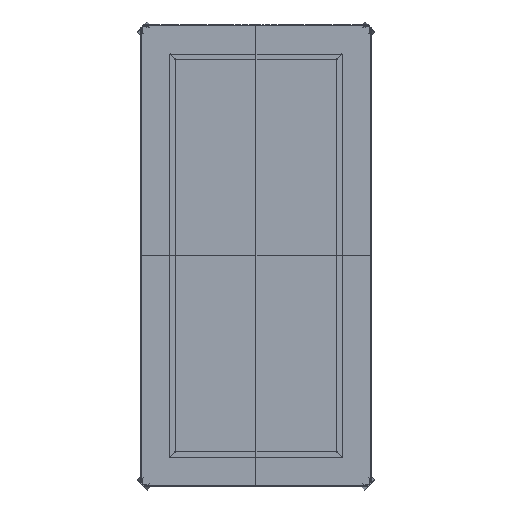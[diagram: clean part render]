
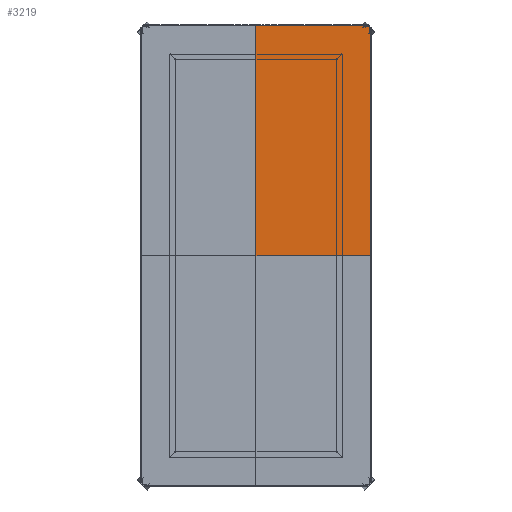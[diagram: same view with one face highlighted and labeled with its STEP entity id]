
A CAD part, top view. The second image highlights one B-rep face of the part: STEP entity #3219.
In plain terms, the highlighted free-form (B-spline) face has degree [1, 1] with [2, 2] control points.
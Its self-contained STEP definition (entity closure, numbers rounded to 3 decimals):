
#90=B_SPLINE_SURFACE_WITH_KNOTS($,1,1,((#36759,#36760),(#36761,#36762)),
.UNSPECIFIED.,.F.,.F.,.F.,(2,2),(2,2),(-263.889,544.111),
(-219.111,184.889),.UNSPECIFIED.);
#3219=ADVANCED_FACE($,(#4383),#90,.T.);
#4383=FACE_OUTER_BOUND($,#5555,.T.);
#5555=EDGE_LOOP($,(#7625,#7626,#7627,#7628,#7629,#7630,#7631,#7632,#7633,
#7634,#7635));
#7625=ORIENTED_EDGE($,*,*,#13429,.T.);
#7626=ORIENTED_EDGE($,*,*,#13430,.T.);
#7627=ORIENTED_EDGE($,*,*,#13431,.T.);
#7628=ORIENTED_EDGE($,*,*,#13432,.T.);
#7629=ORIENTED_EDGE($,*,*,#13433,.T.);
#7630=ORIENTED_EDGE($,*,*,#13434,.T.);
#7631=ORIENTED_EDGE($,*,*,#13435,.T.);
#7632=ORIENTED_EDGE($,*,*,#13436,.T.);
#7633=ORIENTED_EDGE($,*,*,#13437,.T.);
#7634=ORIENTED_EDGE($,*,*,#13438,.T.);
#7635=ORIENTED_EDGE($,*,*,#13439,.T.);
#13429=EDGE_CURVE($,#19233,#19234,#25369,.T.);
#13430=EDGE_CURVE($,#19234,#19235,#25370,.T.);
#13431=EDGE_CURVE($,#19235,#19236,#25371,.T.);
#13432=EDGE_CURVE($,#19236,#19237,#25372,.T.);
#13433=EDGE_CURVE($,#19237,#19238,#25373,.T.);
#13434=EDGE_CURVE($,#19238,#19239,#29412,.T.);
#13435=EDGE_CURVE($,#19239,#19240,#25374,.T.);
#13436=EDGE_CURVE($,#19240,#19241,#29413,.T.);
#13437=EDGE_CURVE($,#19241,#19242,#25375,.T.);
#13438=EDGE_CURVE($,#19242,#19243,#25376,.T.);
#13439=EDGE_CURVE($,#19243,#19233,#25377,.T.);
#19233=VERTEX_POINT($,#36763);
#19234=VERTEX_POINT($,#36764);
#19235=VERTEX_POINT($,#36765);
#19236=VERTEX_POINT($,#36766);
#19237=VERTEX_POINT($,#36767);
#19238=VERTEX_POINT($,#36768);
#19239=VERTEX_POINT($,#36769);
#19240=VERTEX_POINT($,#36770);
#19241=VERTEX_POINT($,#36771);
#19242=VERTEX_POINT($,#36772);
#19243=VERTEX_POINT($,#36773);
#25369=B_SPLINE_CURVE_WITH_KNOTS($,1,(#36731,#36732),.UNSPECIFIED.,.F.,.F.,
(2,2),(2.118,800.),.UNSPECIFIED.);
#25370=B_SPLINE_CURVE_WITH_KNOTS($,1,(#36733,#36734),.UNSPECIFIED.,.F.,.F.,
(2,2),(-400.,-2.118),.UNSPECIFIED.);
#25371=B_SPLINE_CURVE_WITH_KNOTS($,1,(#36735,#36736),.UNSPECIFIED.,.F.,.F.,
(2,2),(0.203,1.),.UNSPECIFIED.);
#25372=B_SPLINE_CURVE_WITH_KNOTS($,1,(#36737,#36738),.UNSPECIFIED.,.F.,.F.,
(2,2),(0.,1.),.UNSPECIFIED.);
#25373=B_SPLINE_CURVE_WITH_KNOTS($,1,(#36739,#36740),.UNSPECIFIED.,.F.,.F.,
(2,2),(-1.,0.),.UNSPECIFIED.);
#25374=B_SPLINE_CURVE_WITH_KNOTS($,1,(#36748,#36749),.UNSPECIFIED.,.F.,.F.,
(2,2),(-1.,0.),.UNSPECIFIED.);
#25375=B_SPLINE_CURVE_WITH_KNOTS($,1,(#36753,#36754),.UNSPECIFIED.,.F.,.F.,
(2,2),(-1.,0.),.UNSPECIFIED.);
#25376=B_SPLINE_CURVE_WITH_KNOTS($,1,(#36755,#36756),.UNSPECIFIED.,.F.,.F.,
(2,2),(0.,1.),.UNSPECIFIED.);
#25377=B_SPLINE_CURVE_WITH_KNOTS($,1,(#36757,#36758),.UNSPECIFIED.,.F.,.F.,
(2,2),(0.,0.391),.UNSPECIFIED.);
#29412=(
BOUNDED_CURVE()
B_SPLINE_CURVE(2,(#36741,#36742,#36743,#36744,#36745,#36746,#36747),.UNSPECIFIED.,
.F.,.F.)
B_SPLINE_CURVE_WITH_KNOTS((3,2,2,3),(-0.795,-0.791,
-0.78,0.),.UNSPECIFIED.)
CURVE()
GEOMETRIC_REPRESENTATION_ITEM()
RATIONAL_B_SPLINE_CURVE((1.,1.,1.,1.,1.,0.925,
1.))
REPRESENTATION_ITEM($)
);
#29413=(
BOUNDED_CURVE()
B_SPLINE_CURVE(2,(#36750,#36751,#36752),.UNSPECIFIED.,.F.,.F.)
B_SPLINE_CURVE_WITH_KNOTS((3,3),(-0.795,0.),.UNSPECIFIED.)
CURVE()
GEOMETRIC_REPRESENTATION_ITEM()
RATIONAL_B_SPLINE_CURVE((1.,0.922,1.))
REPRESENTATION_ITEM($)
);
#36731=CARTESIAN_POINT($,(-219.111,1601.653,721.366));
#36732=CARTESIAN_POINT($,(-219.111,803.771,721.366));
#36733=CARTESIAN_POINT($,(-219.111,803.771,721.366));
#36734=CARTESIAN_POINT($,(178.771,803.771,721.366));
#36735=CARTESIAN_POINT($,(178.771,803.771,721.366));
#36736=CARTESIAN_POINT($,(178.771,1588.451,721.366));
#36737=CARTESIAN_POINT($,(178.771,1588.451,721.366));
#36738=CARTESIAN_POINT($,(178.771,1589.951,721.366));
#36739=CARTESIAN_POINT($,(178.771,1589.951,721.366));
#36740=CARTESIAN_POINT($,(180.889,1590.722,721.366));
#36741=CARTESIAN_POINT($,(180.889,1590.722,721.366));
#36742=CARTESIAN_POINT($,(180.889,1590.728,721.366));
#36743=CARTESIAN_POINT($,(180.889,1590.733,721.366));
#36744=CARTESIAN_POINT($,(180.889,1590.751,721.366));
#36745=CARTESIAN_POINT($,(180.889,1590.768,721.366));
#36746=CARTESIAN_POINT($,(180.882,1592.001,721.366));
#36747=CARTESIAN_POINT($,(180.01,1592.872,721.366));
#36748=CARTESIAN_POINT($,(180.01,1592.872,721.366));
#36749=CARTESIAN_POINT($,(169.99,1602.893,721.366));
#36750=CARTESIAN_POINT($,(169.99,1602.893,721.366));
#36751=CARTESIAN_POINT($,(169.099,1603.784,721.366));
#36752=CARTESIAN_POINT($,(167.839,1603.771,721.366));
#36753=CARTESIAN_POINT($,(167.839,1603.771,721.366));
#36754=CARTESIAN_POINT($,(167.068,1601.653,721.366));
#36755=CARTESIAN_POINT($,(167.068,1601.653,721.366));
#36756=CARTESIAN_POINT($,(165.568,1601.653,721.366));
#36757=CARTESIAN_POINT($,(165.568,1601.653,721.366));
#36758=CARTESIAN_POINT($,(-219.111,1601.653,721.366));
#36759=CARTESIAN_POINT($,(-219.111,1611.772,721.366));
#36760=CARTESIAN_POINT($,(184.889,1611.772,721.366));
#36761=CARTESIAN_POINT($,(-219.111,803.771,721.366));
#36762=CARTESIAN_POINT($,(184.889,803.771,721.366));
#36763=CARTESIAN_POINT($,(-219.111,1601.653,721.366));
#36764=CARTESIAN_POINT($,(-219.111,803.771,721.366));
#36765=CARTESIAN_POINT($,(178.771,803.771,721.366));
#36766=CARTESIAN_POINT($,(178.771,1588.451,721.366));
#36767=CARTESIAN_POINT($,(178.771,1589.951,721.366));
#36768=CARTESIAN_POINT($,(180.889,1590.722,721.366));
#36769=CARTESIAN_POINT($,(180.01,1592.872,721.366));
#36770=CARTESIAN_POINT($,(169.99,1602.893,721.366));
#36771=CARTESIAN_POINT($,(167.839,1603.771,721.366));
#36772=CARTESIAN_POINT($,(167.068,1601.653,721.366));
#36773=CARTESIAN_POINT($,(165.568,1601.653,721.366));
